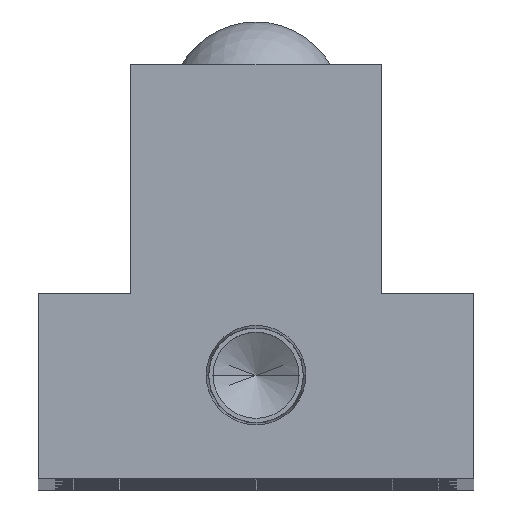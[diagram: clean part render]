
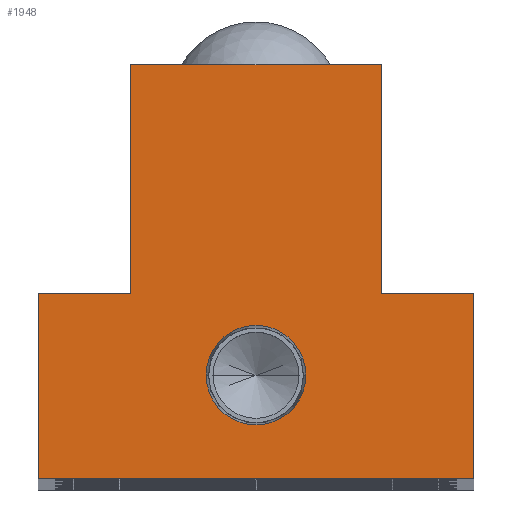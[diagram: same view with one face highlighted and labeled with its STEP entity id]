
A CAD part, top view. The second image highlights one B-rep face of the part: STEP entity #1948.
In plain terms, the highlighted planar face has unit normal (0, 0, 1).
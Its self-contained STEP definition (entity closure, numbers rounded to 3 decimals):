
#164 = VECTOR ( 'NONE', #8792, 1000. ) ;
#795 = LINE ( 'NONE', #1511, #3015 ) ;
#892 = EDGE_CURVE ( 'NONE', #4761, #8464, #5367, .T. ) ;
#1010 = DIRECTION ( 'NONE',  ( 1., 0., 0. ) ) ;
#1161 = EDGE_CURVE ( 'NONE', #8464, #13225, #12913, .T. ) ;
#1215 = CARTESIAN_POINT ( 'NONE',  ( 11.5, 17., 0. ) ) ;
#1330 = DIRECTION ( 'NONE',  ( 0., -1., 0. ) ) ;
#1511 = CARTESIAN_POINT ( 'NONE',  ( 11.5, 38., 0. ) ) ;
#1547 = CARTESIAN_POINT ( 'NONE',  ( 0., 9.5, 0. ) ) ;
#1597 = CARTESIAN_POINT ( 'NONE',  ( -11.5, 17., 0. ) ) ;
#1777 = ORIENTED_EDGE ( 'NONE', *, *, #7960, .T. ) ;
#1934 = LINE ( 'NONE', #12588, #13249 ) ;
#1948 = ADVANCED_FACE ( 'NONE', ( #12369, #6883 ), #9809, .F. ) ;
#1960 = VERTEX_POINT ( 'NONE', #2189 ) ;
#2057 = CARTESIAN_POINT ( 'NONE',  ( 11.5, 17., 0. ) ) ;
#2115 = LINE ( 'NONE', #1597, #10858 ) ;
#2189 = CARTESIAN_POINT ( 'NONE',  ( -11.5, 17., 0. ) ) ;
#2275 = VECTOR ( 'NONE', #8896, 1000. ) ;
#2612 = ORIENTED_EDGE ( 'NONE', *, *, #12634, .T. ) ;
#2657 = DIRECTION ( 'NONE',  ( 1., 0., 0. ) ) ;
#2766 = ORIENTED_EDGE ( 'NONE', *, *, #892, .T. ) ;
#2954 = VECTOR ( 'NONE', #9136, 1000. ) ;
#3015 = VECTOR ( 'NONE', #9185, 1000. ) ;
#3229 = CARTESIAN_POINT ( 'NONE',  ( 0., 0., 0. ) ) ;
#3427 = VERTEX_POINT ( 'NONE', #4039 ) ;
#3483 = CARTESIAN_POINT ( 'NONE',  ( 20., 17., 0. ) ) ;
#4039 = CARTESIAN_POINT ( 'NONE',  ( -20., 0., 0. ) ) ;
#4596 = DIRECTION ( 'NONE',  ( -1., 0., 0. ) ) ;
#4761 = VERTEX_POINT ( 'NONE', #6722 ) ;
#4908 = EDGE_CURVE ( 'NONE', #1960, #10248, #2115, .T. ) ;
#5367 = LINE ( 'NONE', #3483, #13447 ) ;
#5440 = DIRECTION ( 'NONE',  ( -1., 0., 0. ) ) ;
#5644 = ORIENTED_EDGE ( 'NONE', *, *, #6421, .F. ) ;
#5692 = CARTESIAN_POINT ( 'NONE',  ( -20., 0., 0. ) ) ;
#5881 = LINE ( 'NONE', #12397, #2954 ) ;
#5918 = CARTESIAN_POINT ( 'NONE',  ( -4.574, 9.5, 0. ) ) ;
#6007 = DIRECTION ( 'NONE',  ( 0., -1., 0. ) ) ;
#6026 = AXIS2_PLACEMENT_3D ( 'NONE', #3229, #11995, #5440 ) ;
#6261 = EDGE_CURVE ( 'NONE', #10501, #11608, #8242, .T. ) ;
#6292 = ORIENTED_EDGE ( 'NONE', *, *, #4908, .T. ) ;
#6318 = ORIENTED_EDGE ( 'NONE', *, *, #7860, .T. ) ;
#6421 = EDGE_CURVE ( 'NONE', #11608, #10501, #9101, .T. ) ;
#6703 = EDGE_CURVE ( 'NONE', #7933, #4761, #8923, .T. ) ;
#6722 = CARTESIAN_POINT ( 'NONE',  ( 20., 17., 0. ) ) ;
#6883 = FACE_OUTER_BOUND ( 'NONE', #12915, .T. ) ;
#6898 = VECTOR ( 'NONE', #1330, 1000. ) ;
#7106 = VERTEX_POINT ( 'NONE', #7374 ) ;
#7374 = CARTESIAN_POINT ( 'NONE',  ( -11.5, 38., 0. ) ) ;
#7571 = DIRECTION ( 'NONE',  ( 0., 0., 1. ) ) ;
#7782 = EDGE_LOOP ( 'NONE', ( #5644, #10199 ) ) ;
#7860 = EDGE_CURVE ( 'NONE', #3427, #7933, #5881, .T. ) ;
#7933 = VERTEX_POINT ( 'NONE', #12531 ) ;
#7960 = EDGE_CURVE ( 'NONE', #7106, #1960, #1934, .T. ) ;
#8154 = CARTESIAN_POINT ( 'NONE',  ( 11.5, 38., 0. ) ) ;
#8155 = DIRECTION ( 'NONE',  ( -1., 0., 0. ) ) ;
#8242 = CIRCLE ( 'NONE', #13816, 4.574 ) ;
#8402 = CARTESIAN_POINT ( 'NONE',  ( 4.574, 9.5, 0. ) ) ;
#8464 = VERTEX_POINT ( 'NONE', #2057 ) ;
#8792 = DIRECTION ( 'NONE',  ( 0., 1., 0. ) ) ;
#8896 = DIRECTION ( 'NONE',  ( 0., 1., 0. ) ) ;
#8923 = LINE ( 'NONE', #9899, #164 ) ;
#9101 = CIRCLE ( 'NONE', #12790, 4.574 ) ;
#9136 = DIRECTION ( 'NONE',  ( 1., 0., 0. ) ) ;
#9185 = DIRECTION ( 'NONE',  ( -1., 0., 0. ) ) ;
#9216 = DIRECTION ( 'NONE',  ( 0., 0., 1. ) ) ;
#9809 = PLANE ( 'NONE',  #6026 ) ;
#9812 = LINE ( 'NONE', #5692, #6898 ) ;
#9899 = CARTESIAN_POINT ( 'NONE',  ( 20., 17., 0. ) ) ;
#10199 = ORIENTED_EDGE ( 'NONE', *, *, #6261, .F. ) ;
#10248 = VERTEX_POINT ( 'NONE', #14120 ) ;
#10501 = VERTEX_POINT ( 'NONE', #5918 ) ;
#10858 = VECTOR ( 'NONE', #8155, 1000. ) ;
#11608 = VERTEX_POINT ( 'NONE', #8402 ) ;
#11995 = DIRECTION ( 'NONE',  ( 0., 0., -1. ) ) ;
#12369 = FACE_BOUND ( 'NONE', #7782, .T. ) ;
#12397 = CARTESIAN_POINT ( 'NONE',  ( 20., 0., 0. ) ) ;
#12531 = CARTESIAN_POINT ( 'NONE',  ( 20., 0., 0. ) ) ;
#12588 = CARTESIAN_POINT ( 'NONE',  ( -11.5, 17., 0. ) ) ;
#12634 = EDGE_CURVE ( 'NONE', #13225, #7106, #795, .T. ) ;
#12790 = AXIS2_PLACEMENT_3D ( 'NONE', #14160, #7571, #1010 ) ;
#12913 = LINE ( 'NONE', #1215, #2275 ) ;
#12915 = EDGE_LOOP ( 'NONE', ( #2766, #13487, #2612, #1777, #6292, #13824, #6318, #13938 ) ) ;
#13225 = VERTEX_POINT ( 'NONE', #8154 ) ;
#13249 = VECTOR ( 'NONE', #6007, 1000. ) ;
#13447 = VECTOR ( 'NONE', #4596, 1000. ) ;
#13487 = ORIENTED_EDGE ( 'NONE', *, *, #1161, .T. ) ;
#13816 = AXIS2_PLACEMENT_3D ( 'NONE', #1547, #9216, #2657 ) ;
#13824 = ORIENTED_EDGE ( 'NONE', *, *, #14212, .T. ) ;
#13938 = ORIENTED_EDGE ( 'NONE', *, *, #6703, .T. ) ;
#14120 = CARTESIAN_POINT ( 'NONE',  ( -20., 17., 0. ) ) ;
#14160 = CARTESIAN_POINT ( 'NONE',  ( 0., 9.5, 0. ) ) ;
#14212 = EDGE_CURVE ( 'NONE', #10248, #3427, #9812, .T. ) ;
